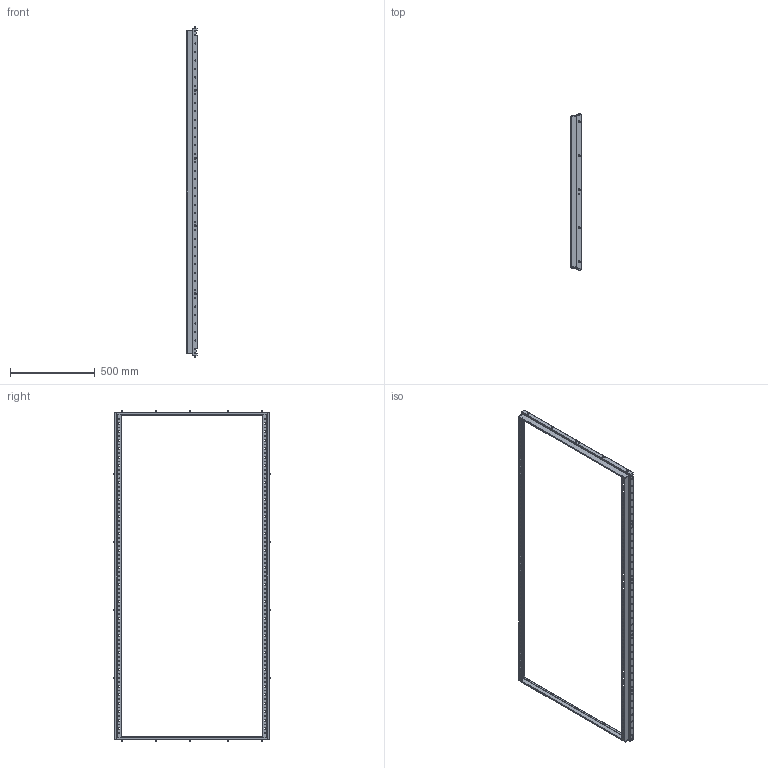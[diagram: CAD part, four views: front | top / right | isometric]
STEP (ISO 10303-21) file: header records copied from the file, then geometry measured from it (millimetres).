
FILE_DESCRIPTION (( 'STEP AP214' ), '1' );
FILE_NAME ('FO-00-UVF-200-100 Ðàìà äëÿ ïëàñòðîíîâ 2000õ1000.STEP', '2025-09-25T11:49:50', ( '' ), ( '' ), 'SwSTEP 2.0', 'SolidWorks 2023', '' );
FILE_SCHEMA (( 'AUTOMOTIVE_DESIGN' ));
Length unit declared in the file: millimetre
Products named in the file (1): FO-00-UVF-200-100 Рама для пластронов 2000х1000
Bounding box: 60.8 x 925 x 1946 mm (x, y, z)
Volume: 845637.8 mm3; surface area: 1023812.2 mm2
Topology: 1 solids, 1 shells, 1904 faces, 5060 edges, 3338 vertices
Faces by surface type: plane 982, cylinder 830, sphere 36, cone 36, torus 20
Entity records: 60755 total; most frequent: CARTESIAN_POINT 11509, ORIENTED_EDGE 10120, DIRECTION 10066, EDGE_CURVE 5060, AXIS2_PLACEMENT_3D 3407, VERTEX_POINT 3338, LINE 3252, VECTOR 3252
